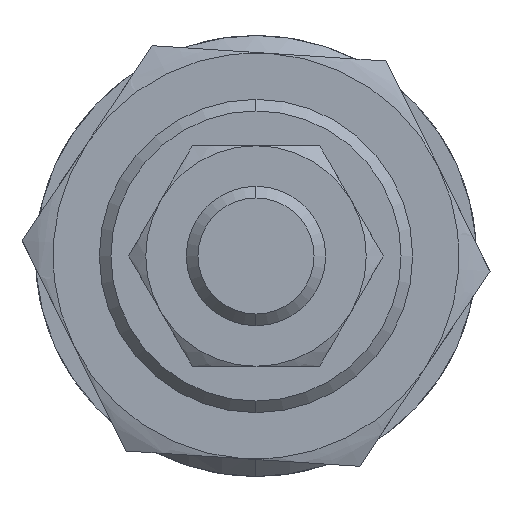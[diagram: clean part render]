
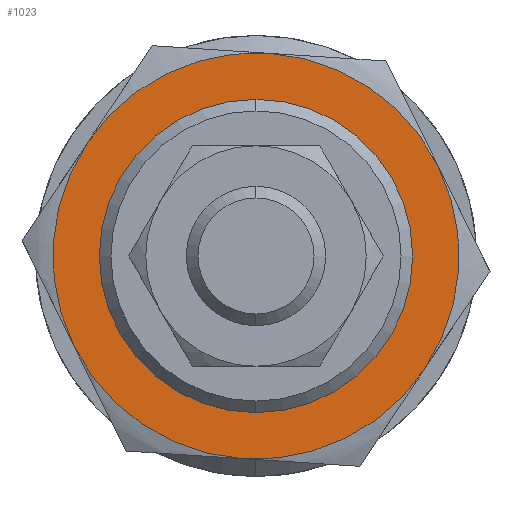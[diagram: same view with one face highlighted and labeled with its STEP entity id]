
A CAD part, left-side view. The second image highlights one B-rep face of the part: STEP entity #1023.
In plain terms, the highlighted planar face has unit normal (-1, 0, 0) as drawn and (0, 0, -1) by its records, which use the part's own axes.
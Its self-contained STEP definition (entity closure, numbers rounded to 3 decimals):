
#31 = AXIS2_PLACEMENT_3D ( 'NONE', #688, #658, #2684 ) ;
#72 = EDGE_CURVE ( 'NONE', #2420, #561, #703, .T. ) ;
#115 = DIRECTION ( 'NONE',  ( 0., 0., 1. ) ) ;
#199 = CIRCLE ( 'NONE', #31, 12.5 ) ;
#203 = CIRCLE ( 'NONE', #2815, 17.5 ) ;
#246 = DIRECTION ( 'NONE',  ( 1., 0., 0. ) ) ;
#282 = DIRECTION ( 'NONE',  ( 0., 0., 1. ) ) ;
#392 = ORIENTED_EDGE ( 'NONE', *, *, #3080, .T. ) ;
#450 = CIRCLE ( 'NONE', #1722, 17.5 ) ;
#520 = ORIENTED_EDGE ( 'NONE', *, *, #2117, .F. ) ;
#561 = VERTEX_POINT ( 'NONE', #3175 ) ;
#576 = EDGE_CURVE ( 'NONE', #1920, #2550, #702, .T. ) ;
#623 = CARTESIAN_POINT ( 'NONE',  ( 0., 0., -5. ) ) ;
#624 = CIRCLE ( 'NONE', #1624, 17.5 ) ;
#658 = DIRECTION ( 'NONE',  ( 0., 0., 1. ) ) ;
#688 = CARTESIAN_POINT ( 'NONE',  ( 0., 0., -5. ) ) ;
#702 = CIRCLE ( 'NONE', #2911, 17.5 ) ;
#703 = CIRCLE ( 'NONE', #2865, 12.5 ) ;
#729 = CARTESIAN_POINT ( 'NONE',  ( 8.75, -15.155, -5. ) ) ;
#765 = CARTESIAN_POINT ( 'NONE',  ( -8.75, 15.155, -5. ) ) ;
#859 = CIRCLE ( 'NONE', #1473, 17.5 ) ;
#889 = ORIENTED_EDGE ( 'NONE', *, *, #576, .F. ) ;
#929 = VERTEX_POINT ( 'NONE', #2487 ) ;
#938 = CARTESIAN_POINT ( 'NONE',  ( 0., 0., -5. ) ) ;
#990 = EDGE_LOOP ( 'NONE', ( #3091, #889, #1747, #520, #2930, #3210 ) ) ;
#1023 = ADVANCED_FACE ( 'NONE', ( #1702, #3242 ), #2566, .F. ) ;
#1045 = DIRECTION ( 'NONE',  ( 0., 0., 1. ) ) ;
#1266 = DIRECTION ( 'NONE',  ( 0., 0., 1. ) ) ;
#1291 = AXIS2_PLACEMENT_3D ( 'NONE', #2074, #1045, #246 ) ;
#1416 = DIRECTION ( 'NONE',  ( 0., 0., 1. ) ) ;
#1417 = CARTESIAN_POINT ( 'NONE',  ( 0., 0., -5. ) ) ;
#1473 = AXIS2_PLACEMENT_3D ( 'NONE', #938, #1416, #3223 ) ;
#1501 = CARTESIAN_POINT ( 'NONE',  ( 0., 0., -5. ) ) ;
#1557 = EDGE_CURVE ( 'NONE', #2465, #929, #624, .T. ) ;
#1576 = DIRECTION ( 'NONE',  ( 1., 0., 0. ) ) ;
#1624 = AXIS2_PLACEMENT_3D ( 'NONE', #2086, #2357, #2889 ) ;
#1681 = EDGE_CURVE ( 'NONE', #2926, #2465, #450, .T. ) ;
#1702 = FACE_BOUND ( 'NONE', #1955, .T. ) ;
#1722 = AXIS2_PLACEMENT_3D ( 'NONE', #2372, #2395, #3147 ) ;
#1747 = ORIENTED_EDGE ( 'NONE', *, *, #1758, .F. ) ;
#1758 = EDGE_CURVE ( 'NONE', #2399, #1920, #2862, .T. ) ;
#1777 = CARTESIAN_POINT ( 'NONE',  ( 17.5, 0., -5. ) ) ;
#1796 = CARTESIAN_POINT ( 'NONE',  ( -12.5, 0., -5. ) ) ;
#1890 = DIRECTION ( 'NONE',  ( 0., 0., 1. ) ) ;
#1920 = VERTEX_POINT ( 'NONE', #729 ) ;
#1955 = EDGE_LOOP ( 'NONE', ( #392, #2723 ) ) ;
#2067 = CARTESIAN_POINT ( 'NONE',  ( -8.75, -15.155, -5. ) ) ;
#2074 = CARTESIAN_POINT ( 'NONE',  ( 0., 0., -5. ) ) ;
#2086 = CARTESIAN_POINT ( 'NONE',  ( 0., 0., -5. ) ) ;
#2117 = EDGE_CURVE ( 'NONE', #929, #2399, #203, .T. ) ;
#2357 = DIRECTION ( 'NONE',  ( 0., 0., 1. ) ) ;
#2372 = CARTESIAN_POINT ( 'NONE',  ( 0., 0., -5. ) ) ;
#2395 = DIRECTION ( 'NONE',  ( 0., 0., 1. ) ) ;
#2399 = VERTEX_POINT ( 'NONE', #2067 ) ;
#2420 = VERTEX_POINT ( 'NONE', #1796 ) ;
#2465 = VERTEX_POINT ( 'NONE', #765 ) ;
#2487 = CARTESIAN_POINT ( 'NONE',  ( -17.5, 0., -5. ) ) ;
#2550 = VERTEX_POINT ( 'NONE', #1777 ) ;
#2566 = PLANE ( 'NONE',  #1291 ) ;
#2631 = DIRECTION ( 'NONE',  ( 1., 0., 0. ) ) ;
#2671 = CARTESIAN_POINT ( 'NONE',  ( 8.75, 15.155, -5. ) ) ;
#2684 = DIRECTION ( 'NONE',  ( 1., 0., 0. ) ) ;
#2723 = ORIENTED_EDGE ( 'NONE', *, *, #72, .T. ) ;
#2815 = AXIS2_PLACEMENT_3D ( 'NONE', #623, #1890, #2631 ) ;
#2862 = CIRCLE ( 'NONE', #2992, 17.5 ) ;
#2865 = AXIS2_PLACEMENT_3D ( 'NONE', #1501, #1266, #3056 ) ;
#2889 = DIRECTION ( 'NONE',  ( 1., 0., 0. ) ) ;
#2911 = AXIS2_PLACEMENT_3D ( 'NONE', #3204, #282, #1576 ) ;
#2926 = VERTEX_POINT ( 'NONE', #2671 ) ;
#2930 = ORIENTED_EDGE ( 'NONE', *, *, #1557, .F. ) ;
#2936 = DIRECTION ( 'NONE',  ( 1., 0., 0. ) ) ;
#2992 = AXIS2_PLACEMENT_3D ( 'NONE', #1417, #115, #2936 ) ;
#3056 = DIRECTION ( 'NONE',  ( 1., 0., 0. ) ) ;
#3080 = EDGE_CURVE ( 'NONE', #561, #2420, #199, .T. ) ;
#3091 = ORIENTED_EDGE ( 'NONE', *, *, #3100, .F. ) ;
#3100 = EDGE_CURVE ( 'NONE', #2550, #2926, #859, .T. ) ;
#3147 = DIRECTION ( 'NONE',  ( 1., 0., 0. ) ) ;
#3175 = CARTESIAN_POINT ( 'NONE',  ( 12.5, 0., -5. ) ) ;
#3204 = CARTESIAN_POINT ( 'NONE',  ( 0., 0., -5. ) ) ;
#3210 = ORIENTED_EDGE ( 'NONE', *, *, #1681, .F. ) ;
#3223 = DIRECTION ( 'NONE',  ( 1., 0., 0. ) ) ;
#3242 = FACE_OUTER_BOUND ( 'NONE', #990, .T. ) ;
